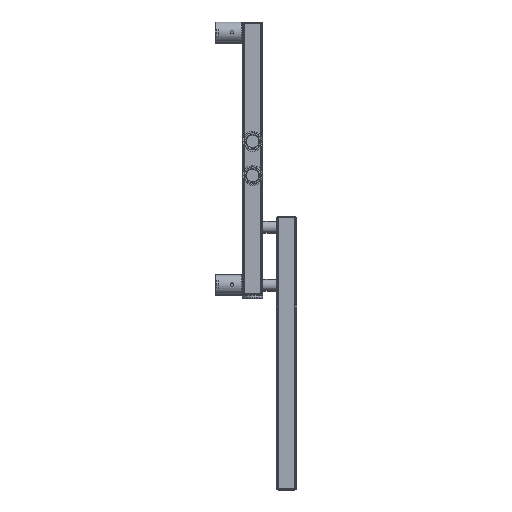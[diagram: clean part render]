
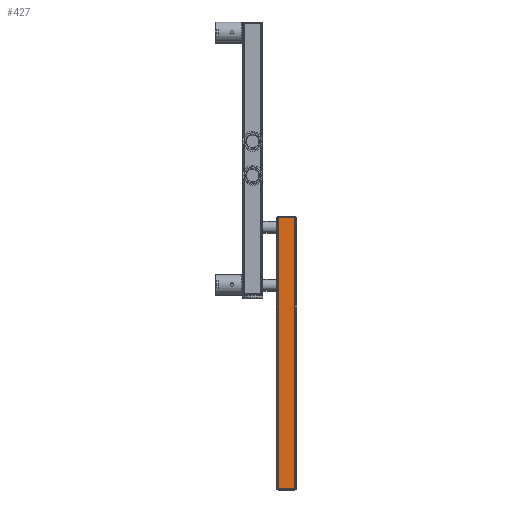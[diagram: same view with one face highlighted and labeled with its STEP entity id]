
A CAD part, top view. The second image highlights one B-rep face of the part: STEP entity #427.
In plain terms, the highlighted planar face has unit normal (0, 0, 1) as drawn and (0, -1, 0) by its records, which use the part's own axes.
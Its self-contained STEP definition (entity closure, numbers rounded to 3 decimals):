
#427 = ADVANCED_FACE( '', ( #909 ), #910, .T. );
#909 = FACE_OUTER_BOUND( '', #1554, .T. );
#910 = PLANE( '', #1555 );
#1554 = EDGE_LOOP( '', ( #2500, #2501, #2502, #2503 ) );
#1555 = AXIS2_PLACEMENT_3D( '', #2504, #2505, #2506 );
#2500 = ORIENTED_EDGE( '', *, *, #3562, .T. );
#2501 = ORIENTED_EDGE( '', *, *, #3653, .T. );
#2502 = ORIENTED_EDGE( '', *, *, #3654, .F. );
#2503 = ORIENTED_EDGE( '', *, *, #3655, .T. );
#2504 = CARTESIAN_POINT( '', ( 15., -15., 400. ) );
#2505 = DIRECTION( '', ( 0., -1., 0. ) );
#2506 = DIRECTION( '', ( 1., 0., 0. ) );
#3562 = EDGE_CURVE( '', #4227, #4240, #4242, .T. );
#3653 = EDGE_CURVE( '', #4240, #4379, #4380, .T. );
#3654 = EDGE_CURVE( '', #4381, #4379, #4382, .T. );
#3655 = EDGE_CURVE( '', #4381, #4227, #4383, .F. );
#4227 = VERTEX_POINT( '', #5114 );
#4240 = VERTEX_POINT( '', #5130 );
#4242 = LINE( '', #5132, #5133 );
#4379 = VERTEX_POINT( '', #5447 );
#4380 = LINE( '', #5448, #5449 );
#4381 = VERTEX_POINT( '', #5450 );
#4382 = LINE( '', #5451, #5452 );
#4383 = LINE( '', #5453, #5454 );
#5114 = CARTESIAN_POINT( '', ( 12., -15., 400. ) );
#5130 = CARTESIAN_POINT( '', ( -12., -15., 400. ) );
#5132 = CARTESIAN_POINT( '', ( 15., -15., 400. ) );
#5133 = VECTOR( '', #6193, 1000. );
#5447 = CARTESIAN_POINT( '', ( -12., -15., 0. ) );
#5448 = CARTESIAN_POINT( '', ( -12., -15., 400. ) );
#5449 = VECTOR( '', #6304, 1000. );
#5450 = CARTESIAN_POINT( '', ( 12., -15., 0. ) );
#5451 = CARTESIAN_POINT( '', ( 15., -15., 0. ) );
#5452 = VECTOR( '', #6305, 1000. );
#5453 = CARTESIAN_POINT( '', ( 12., -15., 400. ) );
#5454 = VECTOR( '', #6306, 1000. );
#6193 = DIRECTION( '', ( -1., 0., 0. ) );
#6304 = DIRECTION( '', ( 0., 0., -1. ) );
#6305 = DIRECTION( '', ( -1., 0., 0. ) );
#6306 = DIRECTION( '', ( 0., 0., -1. ) );
